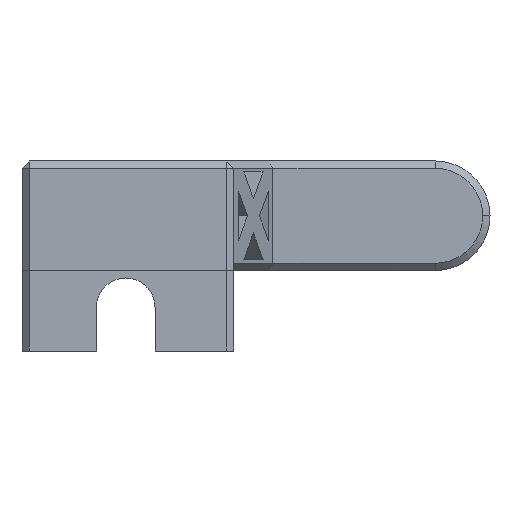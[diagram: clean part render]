
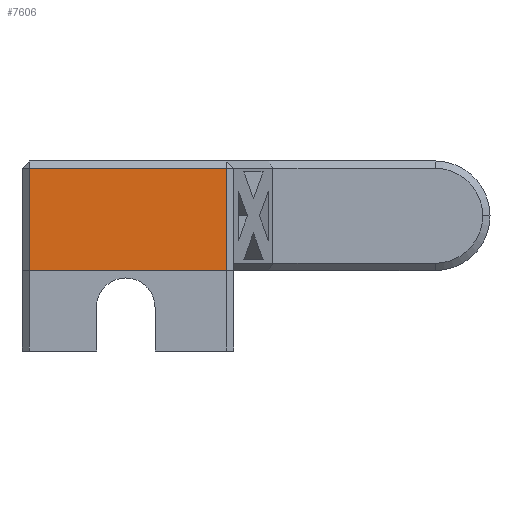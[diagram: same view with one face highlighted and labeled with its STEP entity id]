
A CAD part, front view. The second image highlights one B-rep face of the part: STEP entity #7606.
In plain terms, the highlighted planar face has unit normal (0, -1, 0).
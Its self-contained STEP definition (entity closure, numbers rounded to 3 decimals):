
#1248 = PLANE('',#1249);
#1249 = AXIS2_PLACEMENT_3D('',#1250,#1251,#1252);
#1250 = CARTESIAN_POINT('',(0.5,-30.368,0.));
#1251 = DIRECTION('',(-0.707,-0.707,0.));
#1252 = DIRECTION('',(-0.,-0.,-1.));
#2490 = PLANE('',#2491);
#2491 = AXIS2_PLACEMENT_3D('',#2492,#2493,#2494);
#2492 = CARTESIAN_POINT('',(28.5,-30.368,0.));
#2493 = DIRECTION('',(0.707,-0.707,0.));
#2494 = DIRECTION('',(0.,0.,1.));
#2572 = PLANE('',#2573);
#2573 = AXIS2_PLACEMENT_3D('',#2574,#2575,#2576);
#2574 = CARTESIAN_POINT('',(0.,-30.868,0.));
#2575 = DIRECTION('',(0.,-1.,0.));
#2576 = DIRECTION('',(1.,0.,0.));
#3288 = VERTEX_POINT('',#3289);
#3289 = CARTESIAN_POINT('',(1.,-30.868,0.));
#3312 = VERTEX_POINT('',#3313);
#3313 = CARTESIAN_POINT('',(1.,-30.868,14.));
#3334 = EDGE_CURVE('',#3288,#3312,#3335,.T.);
#3335 = SURFACE_CURVE('',#3336,(#3340,#3347),.PCURVE_S1.);
#3336 = LINE('',#3337,#3338);
#3337 = CARTESIAN_POINT('',(1.,-30.868,0.));
#3338 = VECTOR('',#3339,1.);
#3339 = DIRECTION('',(0.,0.,1.));
#3340 = PCURVE('',#1248,#3341);
#3341 = DEFINITIONAL_REPRESENTATION('',(#3342),#3346);
#3342 = LINE('',#3343,#3344);
#3343 = CARTESIAN_POINT('',(-0.,0.707));
#3344 = VECTOR('',#3345,1.);
#3345 = DIRECTION('',(-1.,0.));
#3346 = ( GEOMETRIC_REPRESENTATION_CONTEXT(2) 
PARAMETRIC_REPRESENTATION_CONTEXT() REPRESENTATION_CONTEXT('2D SPACE',''
  ) );
#3347 = PCURVE('',#3348,#3353);
#3348 = PLANE('',#3349);
#3349 = AXIS2_PLACEMENT_3D('',#3350,#3351,#3352);
#3350 = CARTESIAN_POINT('',(0.,-30.868,0.));
#3351 = DIRECTION('',(0.,1.,0.));
#3352 = DIRECTION('',(1.,0.,0.));
#3353 = DEFINITIONAL_REPRESENTATION('',(#3354),#3358);
#3354 = LINE('',#3355,#3356);
#3355 = CARTESIAN_POINT('',(1.,0.));
#3356 = VECTOR('',#3357,1.);
#3357 = DIRECTION('',(0.,-1.));
#3358 = ( GEOMETRIC_REPRESENTATION_CONTEXT(2) 
PARAMETRIC_REPRESENTATION_CONTEXT() REPRESENTATION_CONTEXT('2D SPACE',''
  ) );
#6452 = VERTEX_POINT('',#6453);
#6453 = CARTESIAN_POINT('',(28.,-30.868,0.));
#6476 = VERTEX_POINT('',#6477);
#6477 = CARTESIAN_POINT('',(28.,-30.868,14.));
#6498 = EDGE_CURVE('',#6452,#6476,#6499,.T.);
#6499 = SURFACE_CURVE('',#6500,(#6504,#6511),.PCURVE_S1.);
#6500 = LINE('',#6501,#6502);
#6501 = CARTESIAN_POINT('',(28.,-30.868,0.));
#6502 = VECTOR('',#6503,1.);
#6503 = DIRECTION('',(0.,0.,1.));
#6504 = PCURVE('',#2490,#6505);
#6505 = DEFINITIONAL_REPRESENTATION('',(#6506),#6510);
#6506 = LINE('',#6507,#6508);
#6507 = CARTESIAN_POINT('',(0.,0.707));
#6508 = VECTOR('',#6509,1.);
#6509 = DIRECTION('',(1.,0.));
#6510 = ( GEOMETRIC_REPRESENTATION_CONTEXT(2) 
PARAMETRIC_REPRESENTATION_CONTEXT() REPRESENTATION_CONTEXT('2D SPACE',''
  ) );
#6511 = PCURVE('',#3348,#6512);
#6512 = DEFINITIONAL_REPRESENTATION('',(#6513),#6517);
#6513 = LINE('',#6514,#6515);
#6514 = CARTESIAN_POINT('',(28.,0.));
#6515 = VECTOR('',#6516,1.);
#6516 = DIRECTION('',(0.,-1.));
#6517 = ( GEOMETRIC_REPRESENTATION_CONTEXT(2) 
PARAMETRIC_REPRESENTATION_CONTEXT() REPRESENTATION_CONTEXT('2D SPACE',''
  ) );
#6522 = EDGE_CURVE('',#3288,#6452,#6523,.T.);
#6523 = SURFACE_CURVE('',#6524,(#6528,#6535),.PCURVE_S1.);
#6524 = LINE('',#6525,#6526);
#6525 = CARTESIAN_POINT('',(0.,-30.868,0.));
#6526 = VECTOR('',#6527,1.);
#6527 = DIRECTION('',(1.,0.,0.));
#6528 = PCURVE('',#2572,#6529);
#6529 = DEFINITIONAL_REPRESENTATION('',(#6530),#6534);
#6530 = LINE('',#6531,#6532);
#6531 = CARTESIAN_POINT('',(0.,0.));
#6532 = VECTOR('',#6533,1.);
#6533 = DIRECTION('',(1.,0.));
#6534 = ( GEOMETRIC_REPRESENTATION_CONTEXT(2) 
PARAMETRIC_REPRESENTATION_CONTEXT() REPRESENTATION_CONTEXT('2D SPACE',''
  ) );
#6535 = PCURVE('',#3348,#6536);
#6536 = DEFINITIONAL_REPRESENTATION('',(#6537),#6541);
#6537 = LINE('',#6538,#6539);
#6538 = CARTESIAN_POINT('',(0.,0.));
#6539 = VECTOR('',#6540,1.);
#6540 = DIRECTION('',(1.,0.));
#6541 = ( GEOMETRIC_REPRESENTATION_CONTEXT(2) 
PARAMETRIC_REPRESENTATION_CONTEXT() REPRESENTATION_CONTEXT('2D SPACE',''
  ) );
#7137 = PLANE('',#7138);
#7138 = AXIS2_PLACEMENT_3D('',#7139,#7140,#7141);
#7139 = CARTESIAN_POINT('',(0.,-30.368,14.5));
#7140 = DIRECTION('',(0.,-0.707,0.707));
#7141 = DIRECTION('',(-1.,-0.,-0.));
#7606 = ADVANCED_FACE('',(#7607),#3348,.F.);
#7607 = FACE_BOUND('',#7608,.F.);
#7608 = EDGE_LOOP('',(#7609,#7610,#7611,#7632));
#7609 = ORIENTED_EDGE('',*,*,#6522,.F.);
#7610 = ORIENTED_EDGE('',*,*,#3334,.T.);
#7611 = ORIENTED_EDGE('',*,*,#7612,.T.);
#7612 = EDGE_CURVE('',#3312,#6476,#7613,.T.);
#7613 = SURFACE_CURVE('',#7614,(#7618,#7625),.PCURVE_S1.);
#7614 = LINE('',#7615,#7616);
#7615 = CARTESIAN_POINT('',(0.,-30.868,14.));
#7616 = VECTOR('',#7617,1.);
#7617 = DIRECTION('',(1.,0.,0.));
#7618 = PCURVE('',#3348,#7619);
#7619 = DEFINITIONAL_REPRESENTATION('',(#7620),#7624);
#7620 = LINE('',#7621,#7622);
#7621 = CARTESIAN_POINT('',(0.,-14.));
#7622 = VECTOR('',#7623,1.);
#7623 = DIRECTION('',(1.,0.));
#7624 = ( GEOMETRIC_REPRESENTATION_CONTEXT(2) 
PARAMETRIC_REPRESENTATION_CONTEXT() REPRESENTATION_CONTEXT('2D SPACE',''
  ) );
#7625 = PCURVE('',#7137,#7626);
#7626 = DEFINITIONAL_REPRESENTATION('',(#7627),#7631);
#7627 = LINE('',#7628,#7629);
#7628 = CARTESIAN_POINT('',(-0.,0.707));
#7629 = VECTOR('',#7630,1.);
#7630 = DIRECTION('',(-1.,0.));
#7631 = ( GEOMETRIC_REPRESENTATION_CONTEXT(2) 
PARAMETRIC_REPRESENTATION_CONTEXT() REPRESENTATION_CONTEXT('2D SPACE',''
  ) );
#7632 = ORIENTED_EDGE('',*,*,#6498,.F.);
